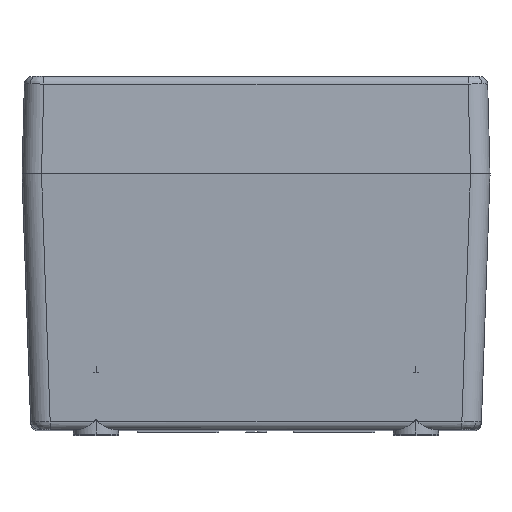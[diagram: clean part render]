
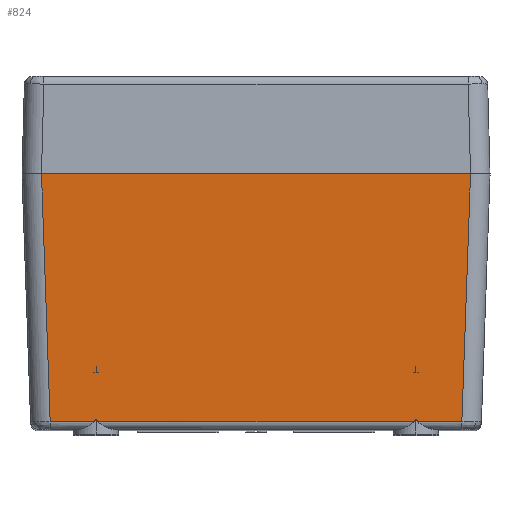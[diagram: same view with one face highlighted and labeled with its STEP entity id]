
A CAD part, top view. The second image highlights one B-rep face of the part: STEP entity #824.
In plain terms, the highlighted planar face has unit normal (0, -0.035, 0.999).
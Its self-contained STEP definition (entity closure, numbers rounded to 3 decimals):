
#130 = ORIENTED_EDGE ( 'NONE', *, *, #10841, .T. ) ;
#393 =( BOUNDED_CURVE ( )  B_SPLINE_CURVE ( 3, ( #3784, #11536, #12848, #5048 ),
 .UNSPECIFIED., .F., .F. ) 
 B_SPLINE_CURVE_WITH_KNOTS ( ( 4, 4 ),
 ( 3.143, 3.224 ),
 .UNSPECIFIED. ) 
 CURVE ( )  GEOMETRIC_REPRESENTATION_ITEM ( )  RATIONAL_B_SPLINE_CURVE ( ( 1., 0.999, 0.999, 1. ) ) 
 REPRESENTATION_ITEM ( '' )  );
#824 = ADVANCED_FACE ( 'NONE', ( #6485 ), #16808, .T. ) ;
#828 = ORIENTED_EDGE ( 'NONE', *, *, #12058, .F. ) ;
#1046 = AXIS2_PLACEMENT_3D ( 'NONE', #10540, #2782, #11882 ) ;
#1486 = ORIENTED_EDGE ( 'NONE', *, *, #10386, .T. ) ;
#1616 = CARTESIAN_POINT ( 'NONE',  ( -41.48, -63.57, 107.78 ) ) ;
#2310 = ORIENTED_EDGE ( 'NONE', *, *, #9622, .T. ) ;
#2736 = AXIS2_PLACEMENT_3D ( 'NONE', #15503, #14599, #14549 ) ;
#2742 = VERTEX_POINT ( 'NONE', #13414 ) ;
#2750 = LINE ( 'NONE', #13351, #3366 ) ;
#2782 = DIRECTION ( 'NONE',  ( 0., -1., 0. ) ) ;
#3036 = ORIENTED_EDGE ( 'NONE', *, *, #13025, .T. ) ;
#3117 = VERTEX_POINT ( 'NONE', #6613 ) ;
#3366 = VECTOR ( 'NONE', #15982, 1000. ) ;
#3428 = DIRECTION ( 'NONE',  ( 0.035, -0.999, -0.035 ) ) ;
#3734 = VERTEX_POINT ( 'NONE', #11377 ) ;
#3784 = CARTESIAN_POINT ( 'NONE',  ( 40.99, -63., 107.8 ) ) ;
#4021 = CARTESIAN_POINT ( 'NONE',  ( 41.48, -63.57, 107.78 ) ) ;
#4172 = VERTEX_POINT ( 'NONE', #12559 ) ;
#4702 = EDGE_CURVE ( 'NONE', #4172, #3734, #5136, .T. ) ;
#4785 = CARTESIAN_POINT ( 'NONE',  ( -41., -63., 102. ) ) ;
#5048 = CARTESIAN_POINT ( 'NONE',  ( 40.52, -63.57, 107.78 ) ) ;
#5136 =( BOUNDED_CURVE ( )  B_SPLINE_CURVE ( 3, ( #4021, #16970, #5273, #14415 ),
 .UNSPECIFIED., .F., .T. ) 
 B_SPLINE_CURVE_WITH_KNOTS ( ( 4, 4 ),
 ( 3.059, 3.14 ),
 .UNSPECIFIED. ) 
 CURVE ( )  GEOMETRIC_REPRESENTATION_ITEM ( )  RATIONAL_B_SPLINE_CURVE ( ( 1., 0.999, 0.999, 1. ) ) 
 REPRESENTATION_ITEM ( '' )  );
#5224 = EDGE_CURVE ( 'NONE', #3734, #2742, #10776, .T. ) ;
#5273 = CARTESIAN_POINT ( 'NONE',  ( 41.167, -63.008, 107.8 ) ) ;
#5316 = AXIS2_PLACEMENT_3D ( 'NONE', #7003, #16141, #8313 ) ;
#5456 = ORIENTED_EDGE ( 'NONE', *, *, #10936, .T. ) ;
#5470 = CARTESIAN_POINT ( 'NONE',  ( 41., -63., 102. ) ) ;
#5965 = EDGE_LOOP ( 'NONE', ( #6978, #2310, #1486, #12595, #130, #5456, #828, #9788, #9328, #10304, #3036, #13442, #14329, #6572 ) ) ;
#6060 = DIRECTION ( 'NONE',  ( 0., 0., -1. ) ) ;
#6061 = CARTESIAN_POINT ( 'NONE',  ( -60., -63.57, 107.78 ) ) ;
#6126 = CARTESIAN_POINT ( 'NONE',  ( -60., -63.57, 107.78 ) ) ;
#6179 = DIRECTION ( 'NONE',  ( 1., 0., 0. ) ) ;
#6221 = CIRCLE ( 'NONE', #10678, 5.8 ) ;
#6388 = CARTESIAN_POINT ( 'NONE',  ( -41.01, -63., 107.8 ) ) ;
#6459 = CARTESIAN_POINT ( 'NONE',  ( -40.676, -63.198, 107.793 ) ) ;
#6485 = FACE_OUTER_BOUND ( 'NONE', #5965, .T. ) ;
#6510 = CARTESIAN_POINT ( 'NONE',  ( -40.99, -63., 107.8 ) ) ;
#6549 = VERTEX_POINT ( 'NONE', #6892 ) ;
#6567 = VECTOR ( 'NONE', #6179, 1000. ) ;
#6572 = ORIENTED_EDGE ( 'NONE', *, *, #5224, .F. ) ;
#6613 = CARTESIAN_POINT ( 'NONE',  ( 55.003, 0., 110. ) ) ;
#6661 = CARTESIAN_POINT ( 'NONE',  ( -41.324, -63.198, 107.793 ) ) ;
#6771 = DIRECTION ( 'NONE',  ( 0., 0., -1. ) ) ;
#6892 = CARTESIAN_POINT ( 'NONE',  ( -41., -63., 107.8 ) ) ;
#6978 = ORIENTED_EDGE ( 'NONE', *, *, #4702, .F. ) ;
#7003 = CARTESIAN_POINT ( 'NONE',  ( -41., -63., 102. ) ) ;
#7369 = LINE ( 'NONE', #6061, #10809 ) ;
#7413 = VERTEX_POINT ( 'NONE', #9211 ) ;
#7617 = CARTESIAN_POINT ( 'NONE',  ( 54.863, -4.006, 109.86 ) ) ;
#7911 = CARTESIAN_POINT ( 'NONE',  ( 40.99, -63., 107.8 ) ) ;
#8280 = CARTESIAN_POINT ( 'NONE',  ( -52.783, -63.57, 107.78 ) ) ;
#8308 = LINE ( 'NONE', #13845, #8661 ) ;
#8313 = DIRECTION ( 'NONE',  ( 0., 0., -1. ) ) ;
#8517 = CARTESIAN_POINT ( 'NONE',  ( -40.52, -63.57, 107.78 ) ) ;
#8661 = VECTOR ( 'NONE', #3428, 1000. ) ;
#8797 = VECTOR ( 'NONE', #16725, 1000. ) ;
#9211 = CARTESIAN_POINT ( 'NONE',  ( 52.783, -63.57, 107.78 ) ) ;
#9280 = VERTEX_POINT ( 'NONE', #8517 ) ;
#9328 = ORIENTED_EDGE ( 'NONE', *, *, #15621, .F. ) ;
#9622 = EDGE_CURVE ( 'NONE', #4172, #7413, #2750, .T. ) ;
#9788 = ORIENTED_EDGE ( 'NONE', *, *, #12152, .F. ) ;
#9966 = VERTEX_POINT ( 'NONE', #7911 ) ;
#10228 = DIRECTION ( 'NONE',  ( 0.035, 0.999, 0.035 ) ) ;
#10304 = ORIENTED_EDGE ( 'NONE', *, *, #11567, .F. ) ;
#10386 = EDGE_CURVE ( 'NONE', #7413, #3117, #12934, .T. ) ;
#10540 = CARTESIAN_POINT ( 'NONE',  ( 41., -63., 102. ) ) ;
#10678 = AXIS2_PLACEMENT_3D ( 'NONE', #5470, #14617, #6771 ) ;
#10776 = CIRCLE ( 'NONE', #1046, 5.8 ) ;
#10809 = VECTOR ( 'NONE', #15205, 1000. ) ;
#10841 = EDGE_CURVE ( 'NONE', #16614, #15416, #8308, .T. ) ;
#10936 = EDGE_CURVE ( 'NONE', #15416, #11281, #16974, .T. ) ;
#10975 = EDGE_CURVE ( 'NONE', #16614, #3117, #11626, .T. ) ;
#11000 = CIRCLE ( 'NONE', #14335, 5.8 ) ;
#11281 = VERTEX_POINT ( 'NONE', #1616 ) ;
#11377 = CARTESIAN_POINT ( 'NONE',  ( 41.01, -63., 107.8 ) ) ;
#11536 = CARTESIAN_POINT ( 'NONE',  ( 40.833, -63.008, 107.8 ) ) ;
#11567 = EDGE_CURVE ( 'NONE', #9280, #14097, #16754, .T. ) ;
#11626 = LINE ( 'NONE', #14180, #8797 ) ;
#11744 = CARTESIAN_POINT ( 'NONE',  ( -40.99, -63., 107.8 ) ) ;
#11792 = CARTESIAN_POINT ( 'NONE',  ( 40.52, -63.57, 107.78 ) ) ;
#11880 = CARTESIAN_POINT ( 'NONE',  ( -41.01, -63., 107.8 ) ) ;
#11882 = DIRECTION ( 'NONE',  ( 0., 0., -1. ) ) ;
#12058 = EDGE_CURVE ( 'NONE', #14832, #11281, #13628, .T. ) ;
#12152 = EDGE_CURVE ( 'NONE', #6549, #14832, #16784, .T. ) ;
#12559 = CARTESIAN_POINT ( 'NONE',  ( 41.48, -63.57, 107.78 ) ) ;
#12595 = ORIENTED_EDGE ( 'NONE', *, *, #10975, .F. ) ;
#12848 = CARTESIAN_POINT ( 'NONE',  ( 40.676, -63.198, 107.793 ) ) ;
#12878 = CARTESIAN_POINT ( 'NONE',  ( -55.003, 0., 110. ) ) ;
#12934 = LINE ( 'NONE', #7617, #14297 ) ;
#12975 = CARTESIAN_POINT ( 'NONE',  ( -40.52, -63.57, 107.78 ) ) ;
#13025 = EDGE_CURVE ( 'NONE', #9280, #14104, #7369, .T. ) ;
#13150 = EDGE_CURVE ( 'NONE', #9966, #14104, #393, .T. ) ;
#13173 = CARTESIAN_POINT ( 'NONE',  ( -41.167, -63.008, 107.8 ) ) ;
#13351 = CARTESIAN_POINT ( 'NONE',  ( -60., -63.57, 107.78 ) ) ;
#13414 = CARTESIAN_POINT ( 'NONE',  ( 41., -63., 107.8 ) ) ;
#13442 = ORIENTED_EDGE ( 'NONE', *, *, #13150, .F. ) ;
#13628 =( BOUNDED_CURVE ( )  B_SPLINE_CURVE ( 3, ( #11880, #13173, #6661, #15798 ),
 .UNSPECIFIED., .F., .F. ) 
 B_SPLINE_CURVE_WITH_KNOTS ( ( 4, 4 ),
 ( 3.143, 3.224 ),
 .UNSPECIFIED. ) 
 CURVE ( )  GEOMETRIC_REPRESENTATION_ITEM ( )  RATIONAL_B_SPLINE_CURVE ( ( 1., 0.999, 0.999, 1. ) ) 
 REPRESENTATION_ITEM ( '' )  );
#13708 = EDGE_CURVE ( 'NONE', #2742, #9966, #6221, .T. ) ;
#13845 = CARTESIAN_POINT ( 'NONE',  ( -55.009, 0.174, 110.006 ) ) ;
#13897 = DIRECTION ( 'NONE',  ( 0., -1., 0. ) ) ;
#14097 = VERTEX_POINT ( 'NONE', #11744 ) ;
#14104 = VERTEX_POINT ( 'NONE', #11792 ) ;
#14180 = CARTESIAN_POINT ( 'NONE',  ( -60., 0., 110. ) ) ;
#14297 = VECTOR ( 'NONE', #10228, 1000. ) ;
#14329 = ORIENTED_EDGE ( 'NONE', *, *, #13708, .F. ) ;
#14335 = AXIS2_PLACEMENT_3D ( 'NONE', #4785, #13897, #6060 ) ;
#14363 = CARTESIAN_POINT ( 'NONE',  ( -40.833, -63.008, 107.8 ) ) ;
#14415 = CARTESIAN_POINT ( 'NONE',  ( 41.01, -63., 107.8 ) ) ;
#14549 = DIRECTION ( 'NONE',  ( 0., -0.999, -0.035 ) ) ;
#14599 = DIRECTION ( 'NONE',  ( 0., -0.035, 0.999 ) ) ;
#14617 = DIRECTION ( 'NONE',  ( 0., -1., 0. ) ) ;
#14832 = VERTEX_POINT ( 'NONE', #6388 ) ;
#15205 = DIRECTION ( 'NONE',  ( 1., 0., 0. ) ) ;
#15416 = VERTEX_POINT ( 'NONE', #8280 ) ;
#15503 = CARTESIAN_POINT ( 'NONE',  ( -60., 0., 110. ) ) ;
#15621 = EDGE_CURVE ( 'NONE', #14097, #6549, #11000, .T. ) ;
#15798 = CARTESIAN_POINT ( 'NONE',  ( -41.48, -63.57, 107.78 ) ) ;
#15982 = DIRECTION ( 'NONE',  ( 1., 0., 0. ) ) ;
#16141 = DIRECTION ( 'NONE',  ( 0., -1., 0. ) ) ;
#16614 = VERTEX_POINT ( 'NONE', #12878 ) ;
#16725 = DIRECTION ( 'NONE',  ( 1., 0., 0. ) ) ;
#16754 =( BOUNDED_CURVE ( )  B_SPLINE_CURVE ( 3, ( #12975, #6459, #14363, #6510 ),
 .UNSPECIFIED., .F., .F. ) 
 B_SPLINE_CURVE_WITH_KNOTS ( ( 4, 4 ),
 ( 3.059, 3.14 ),
 .UNSPECIFIED. ) 
 CURVE ( )  GEOMETRIC_REPRESENTATION_ITEM ( )  RATIONAL_B_SPLINE_CURVE ( ( 1., 0.999, 0.999, 1. ) ) 
 REPRESENTATION_ITEM ( '' )  );
#16784 = CIRCLE ( 'NONE', #5316, 5.8 ) ;
#16808 = PLANE ( 'NONE',  #2736 ) ;
#16970 = CARTESIAN_POINT ( 'NONE',  ( 41.324, -63.198, 107.793 ) ) ;
#16974 = LINE ( 'NONE', #6126, #6567 ) ;
